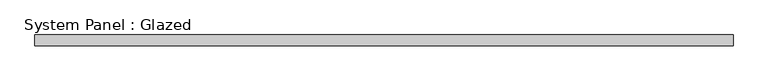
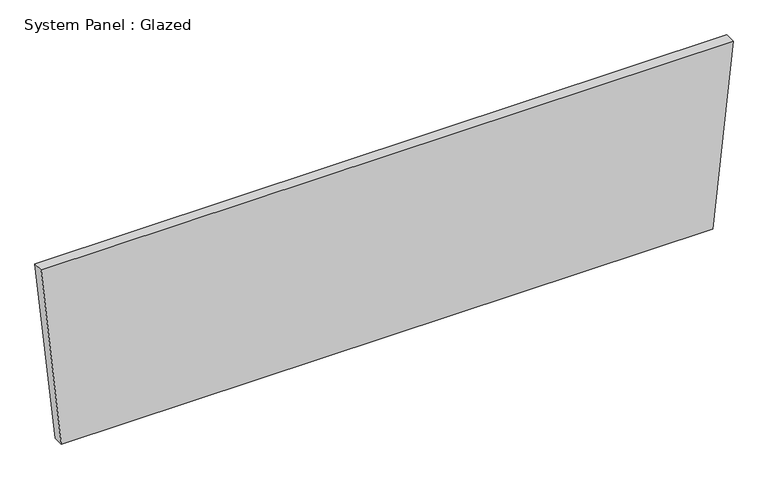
"""IFC4 building model written with IfcOpenShell, lengths in millimetres: plate geometry, System Panel : Glazed."""

from ifc_helpers import new_model, si_unit, frame, origin, place, context, project, spatial, polyline, outline, extrude, source, transform, mapped, element, save


def system_panel_glazed_39e9cbfb(model_context):
    return source(origin(), model_context, "Body", "SweptSolid", [
        extrude(outline(polyline([(0.0, -774.7275675), (0.0, 774.7275675), (455.8848707, 822.6614204), (455.8848707, -822.6614204), (0.0, -774.7275675)])), frame((0.0, -44.45, 0.0), z_axis=(0.0, 1.0, 0.0), x_axis=(0.0, 0.0, 1.0)), (0.0, 0.0, 1.0), 25.4),
    ])


if __name__ == "__main__":
    model = new_model("IFC4")
    model_context = context("Model", 3, world=origin())
    ifc_project = project(units=[si_unit("LENGTHUNIT", "METRE", prefix="MILLI")], contexts=[model_context])
    site = spatial("IfcSite", under=ifc_project)
    building = spatial("IfcBuilding", under=site)
    placement = place(None, origin())
    system_panel_glazed_shape = system_panel_glazed_39e9cbfb(model_context)
    element("IfcPlate", 1, ObjectType="System Panel : Glazed", at=placement, inside=building, context=model_context, shape_type="MappedRepresentation", body=[
        mapped(system_panel_glazed_shape, transform((0.0, 0.0, 0.0), x_axis=(1.0, 0.0, 0.0), y_axis=(0.0, 1.0, 0.0), z_axis=(0.0, 0.0, 1.0))),
    ])
    save(model, "model.ifc")
